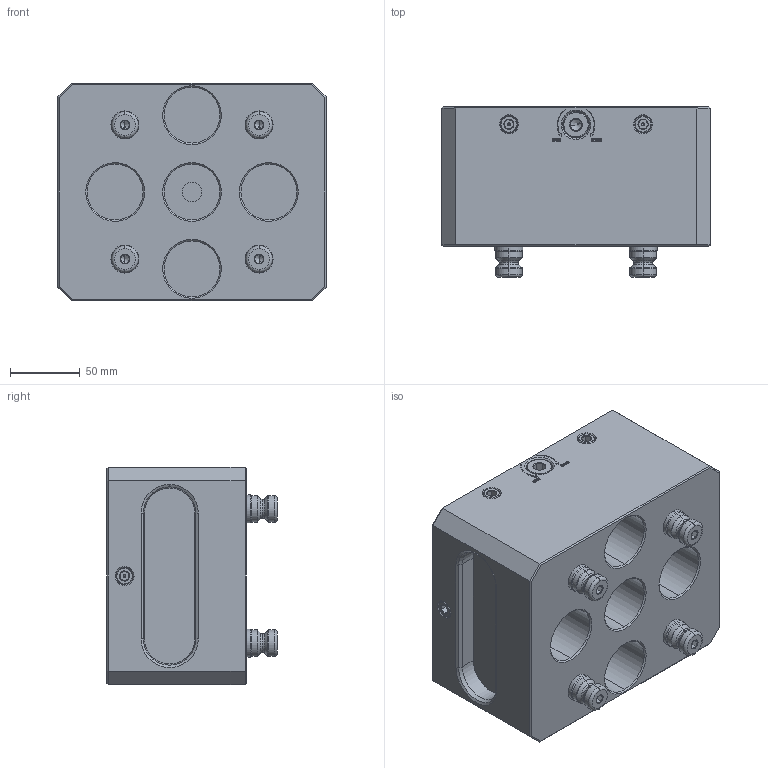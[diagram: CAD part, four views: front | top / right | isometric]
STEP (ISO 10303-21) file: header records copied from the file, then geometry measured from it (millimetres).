
FILE_DESCRIPTION((''),'2;1');
FILE_NAME('TI_WH_96ZPS_RH100NP001_ASM','2026-06-10T13:30:37',('Admin'),(''),'CREO PARAMETRIC BY PTC INC, 2025010','CREO PARAMETRIC BY PTC INC, 2025010','');
FILE_SCHEMA(('CONFIG_CONTROL_DESIGN'));
Products named in the file (23): F000-24778A-5-SOLID1; F000-24778A-5-SOLID2; B40101-00003_-14870001; B40101-00003_-19960001; F000-24778A-4-SOLID1; B40101-00003_-37100001; B11500-00185_O--490001; F000-24778A-3-SOLID2; 200; _30001; F009-0010923B_-1-S0001; F000-24778A-2-SOLID1; B11500-00185_O--930001; B11500-00185_O--100001; F000-24778A-2-SOLID2; F000-24778A-4-SOLID2; B11500-00185_O--120002; F000-24778A-3-SOLID1; B40101-00003_-12760001; B40101-00003_-15200001; B40101-00003_-16420001; NT-S96192V4_ASM; TI_WH_96ZPS_RH100NP001_ASM
Assembly tree (22 placements, depth 3):
  TI_WH_96ZPS_RH100NP001_ASM
    NT-S96192V4_ASM
      F000-24778A-5-SOLID1
      F000-24778A-5-SOLID2
      B40101-00003_-14870001
      B40101-00003_-19960001
      F000-24778A-4-SOLID1
      B40101-00003_-37100001
      B11500-00185_O--490001
      F000-24778A-3-SOLID2
      200
      _30001
      F009-0010923B_-1-S0001
      F000-24778A-2-SOLID1
      B11500-00185_O--930001
      B11500-00185_O--100001
      F000-24778A-2-SOLID2
      F000-24778A-4-SOLID2
      B11500-00185_O--120002
      F000-24778A-3-SOLID1
      B40101-00003_-12760001
      B40101-00003_-15200001
      B40101-00003_-16420001
Bounding box: 192 x 122 x 156 mm (x, y, z)
Volume: 2456436.9 mm3; surface area: 208956.1 mm2
Topology: 21 solids, 21 shells, 1067 faces, 2516 edges, 1522 vertices
Faces by surface type: plane 358, cylinder 312, cone 268, torus 66, extrusion 40, bspline 23
Entity records: 118131 total; most frequent: CARTESIAN_POINT 93950, ORIENTED_EDGE 4940, DIRECTION 4859, EDGE_CURVE 2470, AXIS2_PLACEMENT_3D 1829, VERTEX_POINT 1522, VECTOR 1201, LINE 1161
